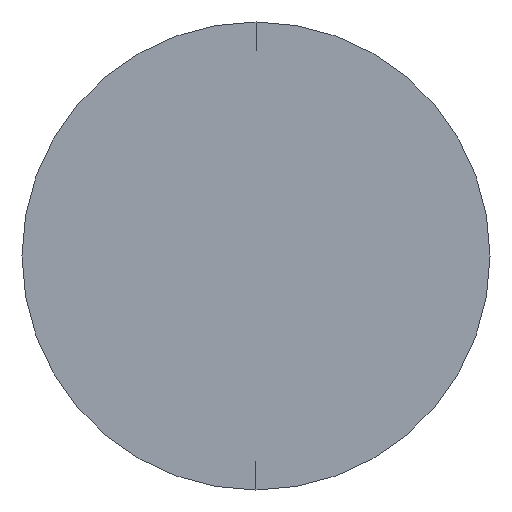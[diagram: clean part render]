
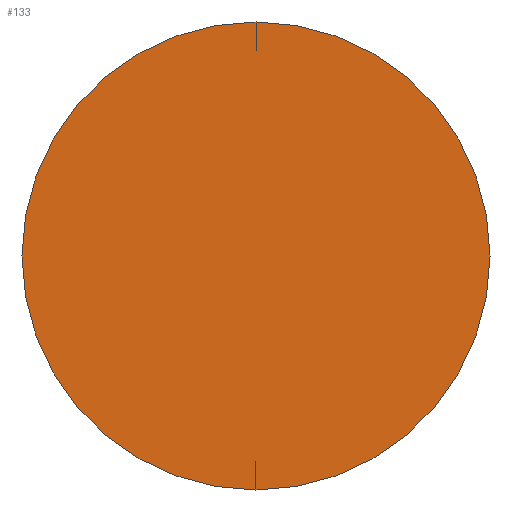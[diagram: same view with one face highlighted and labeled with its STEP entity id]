
A CAD part, left-side view. The second image highlights one B-rep face of the part: STEP entity #133.
In plain terms, the highlighted planar face has unit normal (-1, 0, 0).
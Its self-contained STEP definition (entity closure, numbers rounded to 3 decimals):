
#14 = CARTESIAN_POINT ( 'NONE',  ( 0., 0., 1.4 ) ) ;
#23 = DIRECTION ( 'NONE',  ( 1., 0., 0. ) ) ;
#59 = DIRECTION ( 'NONE',  ( -1., 0., 0. ) ) ;
#83 = DIRECTION ( 'NONE',  ( 0., 0., -1. ) ) ;
#88 = AXIS2_PLACEMENT_3D ( 'NONE', #113, #23, #83 ) ;
#90 = VERTEX_POINT ( 'NONE', #14 ) ;
#92 = EDGE_CURVE ( 'NONE', #90, #208, #117, .T. ) ;
#101 = DIRECTION ( 'NONE',  ( 0., 0., 1. ) ) ;
#103 = ORIENTED_EDGE ( 'NONE', *, *, #277, .T. ) ;
#113 = CARTESIAN_POINT ( 'NONE',  ( 0., 0., 0. ) ) ;
#117 = CIRCLE ( 'NONE', #232, 1.4 ) ;
#119 = PLANE ( 'NONE',  #88 ) ;
#133 = ADVANCED_FACE ( 'NONE', ( #240 ), #119, .F. ) ;
#134 = EDGE_LOOP ( 'NONE', ( #169, #103 ) ) ;
#152 = CARTESIAN_POINT ( 'NONE',  ( 0., 0., -1.4 ) ) ;
#169 = ORIENTED_EDGE ( 'NONE', *, *, #92, .T. ) ;
#184 = CARTESIAN_POINT ( 'NONE',  ( 0., 0., 0. ) ) ;
#206 = CIRCLE ( 'NONE', #237, 1.4 ) ;
#208 = VERTEX_POINT ( 'NONE', #152 ) ;
#224 = CARTESIAN_POINT ( 'NONE',  ( 0., 0., 0. ) ) ;
#232 = AXIS2_PLACEMENT_3D ( 'NONE', #184, #59, #288 ) ;
#237 = AXIS2_PLACEMENT_3D ( 'NONE', #224, #279, #101 ) ;
#240 = FACE_OUTER_BOUND ( 'NONE', #134, .T. ) ;
#277 = EDGE_CURVE ( 'NONE', #208, #90, #206, .T. ) ;
#279 = DIRECTION ( 'NONE',  ( -1., 0., 0. ) ) ;
#288 = DIRECTION ( 'NONE',  ( 0., 0., 1. ) ) ;
